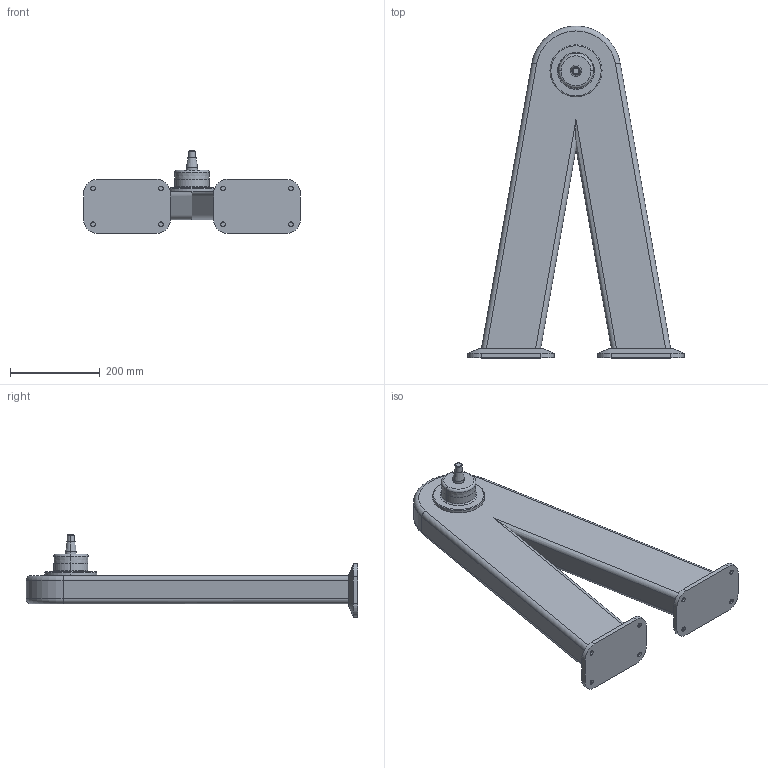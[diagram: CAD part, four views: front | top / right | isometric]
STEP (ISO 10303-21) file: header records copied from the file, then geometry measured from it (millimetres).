
FILE_DESCRIPTION (( 'STEP AP214' ), '1' );
FILE_NAME ('WP850_H640.STEP', '2014-09-08T13:02:05', ( '' ), ( '' ), 'SwSTEP 2.0', 'SolidWorks 2014', '' );
FILE_SCHEMA (( 'AUTOMOTIVE_DESIGN' ));
Length unit declared in the file: millimetre
Products named in the file (1): WP850_H640
Bounding box: 482.73 x 740 x 183.98 mm (x, y, z)
Volume: 11882177.2 mm3; surface area: 583111.3 mm2
Topology: 1 solids, 1 shells, 101 faces, 221 edges, 136 vertices
Faces by surface type: cylinder 41, plane 38, cone 14, torus 8
Entity records: 2795 total; most frequent: DIRECTION 513, CARTESIAN_POINT 489, ORIENTED_EDGE 442, EDGE_CURVE 221, AXIS2_PLACEMENT_3D 200, VERTEX_POINT 136, EDGE_LOOP 115, VECTOR 113
